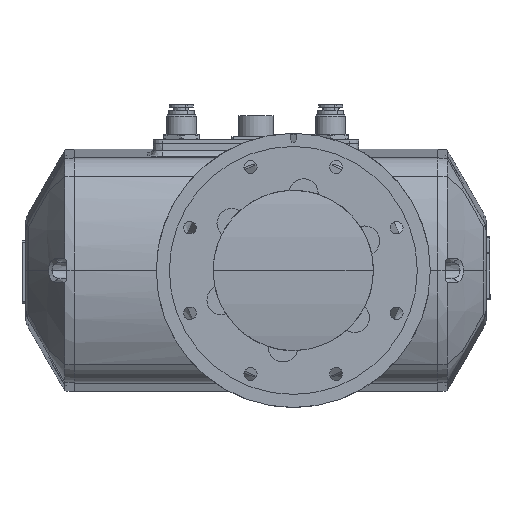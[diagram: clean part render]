
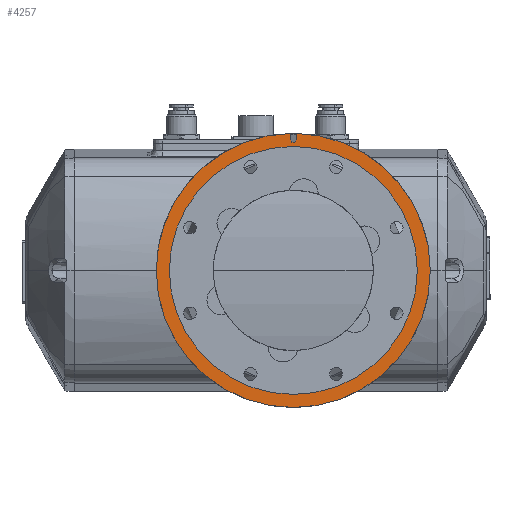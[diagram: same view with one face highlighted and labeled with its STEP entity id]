
A CAD part, front view. The second image highlights one B-rep face of the part: STEP entity #4257.
In plain terms, the highlighted planar face has unit normal (0, -1, 0).
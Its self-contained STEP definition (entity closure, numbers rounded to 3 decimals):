
#710 = CARTESIAN_POINT ( 'NONE',  ( 73.5, 348.502, 1338. ) ) ;
#1101 = EDGE_CURVE ( 'NONE', #11170, #15462, #14072, .T. ) ;
#1532 = CARTESIAN_POINT ( 'NONE',  ( 66.5, 348.502, 1338. ) ) ;
#1626 = CARTESIAN_POINT ( 'NONE',  ( 0., 348.502, 1338. ) ) ;
#2850 = CARTESIAN_POINT ( 'NONE',  ( 0., 348.502, 1338. ) ) ;
#3432 = VERTEX_POINT ( 'NONE', #3578 ) ;
#3470 = VERTEX_POINT ( 'NONE', #710 ) ;
#3578 = CARTESIAN_POINT ( 'NONE',  ( -66.5, 348.502, 1338. ) ) ;
#4141 = ORIENTED_EDGE ( 'NONE', *, *, #25597, .F. ) ;
#4257 = ADVANCED_FACE ( 'NONE', ( #5928, #29579 ), #28735, .T. ) ;
#4321 = AXIS2_PLACEMENT_3D ( 'NONE', #28848, #25981, #14481 ) ;
#4409 = CIRCLE ( 'NONE', #19854, 1.5 ) ;
#4579 = ORIENTED_EDGE ( 'NONE', *, *, #26788, .F. ) ;
#5347 = DIRECTION ( 'NONE',  ( 0., -1., 0. ) ) ;
#5928 = FACE_BOUND ( 'NONE', #14453, .T. ) ;
#6333 = ORIENTED_EDGE ( 'NONE', *, *, #1101, .T. ) ;
#6943 = EDGE_CURVE ( 'NONE', #33108, #3432, #31650, .T. ) ;
#7231 = EDGE_CURVE ( 'NONE', #15462, #3470, #16885, .T. ) ;
#7842 = VERTEX_POINT ( 'NONE', #36672 ) ;
#7884 = VECTOR ( 'NONE', #12402, 1000. ) ;
#9132 = CIRCLE ( 'NONE', #4321, 73.5 ) ;
#9789 = CARTESIAN_POINT ( 'NONE',  ( -1.5, 348.502, 1408. ) ) ;
#10311 = ORIENTED_EDGE ( 'NONE', *, *, #6943, .F. ) ;
#10532 = VERTEX_POINT ( 'NONE', #19776 ) ;
#10801 = ORIENTED_EDGE ( 'NONE', *, *, #22713, .F. ) ;
#10989 = LINE ( 'NONE', #34745, #7884 ) ;
#11170 = VERTEX_POINT ( 'NONE', #14324 ) ;
#11254 = AXIS2_PLACEMENT_3D ( 'NONE', #29875, #21165, #15374 ) ;
#11343 = CARTESIAN_POINT ( 'NONE',  ( -1.5, 348.502, 1408. ) ) ;
#11802 = AXIS2_PLACEMENT_3D ( 'NONE', #1626, #13294, #16166 ) ;
#12402 = DIRECTION ( 'NONE',  ( 0., 0., 1. ) ) ;
#13084 = EDGE_LOOP ( 'NONE', ( #6333, #36937, #17274, #30408, #4579, #4141 ) ) ;
#13294 = DIRECTION ( 'NONE',  ( 0., -1., 0. ) ) ;
#14072 = CIRCLE ( 'NONE', #33605, 73.5 ) ;
#14152 = DIRECTION ( 'NONE',  ( 0., -1., 0. ) ) ;
#14324 = CARTESIAN_POINT ( 'NONE',  ( -1.5, 348.502, 1411.485 ) ) ;
#14453 = EDGE_LOOP ( 'NONE', ( #10801, #10311 ) ) ;
#14481 = DIRECTION ( 'NONE',  ( -1., 0., 0. ) ) ;
#15374 = DIRECTION ( 'NONE',  ( -1., 0., 0. ) ) ;
#15462 = VERTEX_POINT ( 'NONE', #24972 ) ;
#16166 = DIRECTION ( 'NONE',  ( -1., 0., 0. ) ) ;
#16885 = CIRCLE ( 'NONE', #11802, 73.5 ) ;
#17274 = ORIENTED_EDGE ( 'NONE', *, *, #23152, .T. ) ;
#18840 = DIRECTION ( 'NONE',  ( 0., -1., 0. ) ) ;
#18949 = CARTESIAN_POINT ( 'NONE',  ( 0., 348.502, 1338. ) ) ;
#19776 = CARTESIAN_POINT ( 'NONE',  ( 1.5, 348.502, 1411.485 ) ) ;
#19854 = AXIS2_PLACEMENT_3D ( 'NONE', #30751, #5347, #36505 ) ;
#20749 = VERTEX_POINT ( 'NONE', #11343 ) ;
#21165 = DIRECTION ( 'NONE',  ( 0., -1., 0. ) ) ;
#22713 = EDGE_CURVE ( 'NONE', #3432, #33108, #31931, .T. ) ;
#22810 = LINE ( 'NONE', #9789, #27732 ) ;
#23152 = EDGE_CURVE ( 'NONE', #3470, #10532, #9132, .T. ) ;
#24972 = CARTESIAN_POINT ( 'NONE',  ( -73.5, 348.502, 1338. ) ) ;
#25597 = EDGE_CURVE ( 'NONE', #11170, #20749, #22810, .T. ) ;
#25981 = DIRECTION ( 'NONE',  ( 0., -1., 0. ) ) ;
#26000 = AXIS2_PLACEMENT_3D ( 'NONE', #18949, #27790, #30656 ) ;
#26788 = EDGE_CURVE ( 'NONE', #20749, #7842, #4409, .T. ) ;
#27732 = VECTOR ( 'NONE', #29737, 1000. ) ;
#27790 = DIRECTION ( 'NONE',  ( 0., -1., 0. ) ) ;
#28735 = PLANE ( 'NONE',  #11254 ) ;
#28848 = CARTESIAN_POINT ( 'NONE',  ( 0., 348.502, 1338. ) ) ;
#29579 = FACE_OUTER_BOUND ( 'NONE', #13084, .T. ) ;
#29737 = DIRECTION ( 'NONE',  ( 0., 0., -1. ) ) ;
#29875 = CARTESIAN_POINT ( 'NONE',  ( 0., 348.502, 1338. ) ) ;
#30408 = ORIENTED_EDGE ( 'NONE', *, *, #35601, .F. ) ;
#30656 = DIRECTION ( 'NONE',  ( -1., 0., 0. ) ) ;
#30751 = CARTESIAN_POINT ( 'NONE',  ( 0., 348.502, 1408. ) ) ;
#31650 = CIRCLE ( 'NONE', #32157, 66.5 ) ;
#31931 = CIRCLE ( 'NONE', #26000, 66.5 ) ;
#32157 = AXIS2_PLACEMENT_3D ( 'NONE', #35690, #18840, #35569 ) ;
#33108 = VERTEX_POINT ( 'NONE', #1532 ) ;
#33605 = AXIS2_PLACEMENT_3D ( 'NONE', #2850, #14152, #34117 ) ;
#34117 = DIRECTION ( 'NONE',  ( -1., 0., 0. ) ) ;
#34745 = CARTESIAN_POINT ( 'NONE',  ( 1.5, 348.502, 1408. ) ) ;
#35569 = DIRECTION ( 'NONE',  ( -1., 0., 0. ) ) ;
#35601 = EDGE_CURVE ( 'NONE', #7842, #10532, #10989, .T. ) ;
#35690 = CARTESIAN_POINT ( 'NONE',  ( 0., 348.502, 1338. ) ) ;
#36505 = DIRECTION ( 'NONE',  ( -1., 0., 0. ) ) ;
#36672 = CARTESIAN_POINT ( 'NONE',  ( 1.5, 348.502, 1408. ) ) ;
#36937 = ORIENTED_EDGE ( 'NONE', *, *, #7231, .T. ) ;
